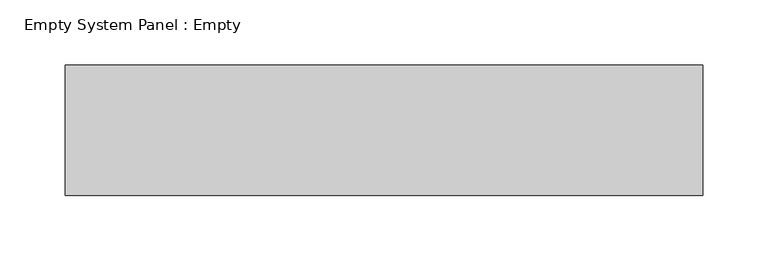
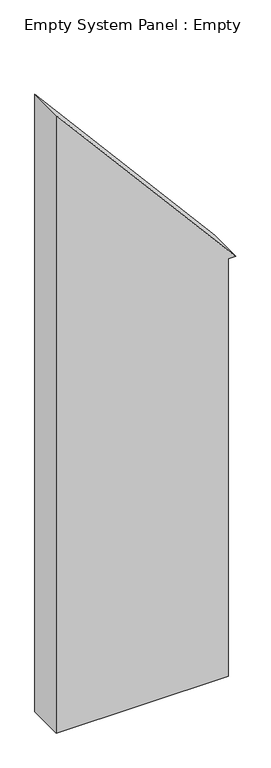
"""IFC4 building model written with IfcOpenShell, lengths in millimetres: plate geometry, Empty System Panel : Empty."""

from ifc_helpers import new_model, si_unit, frame, origin, place, context, project, spatial, polyline, outline, extrude, source, transform, mapped, element, save


def empty_system_panel_empty_778d40bf(model_context):
    return source(origin(), model_context, "Body", "SweptSolid", [
        extrude(outline(polyline([(0.0, -244.1589868), (0.0, 224.1589868), (1198.7517414, 224.1589868), (1198.7517414, 244.1589868), (1774.5448978, -244.1589868), (0.0, -244.1589868)])), frame((0.0, -50.0, 0.0), z_axis=(0.0, 1.0, 0.0), x_axis=(0.0, 0.0, 1.0)), (0.0, 0.0, 1.0), 100.0),
    ])


if __name__ == "__main__":
    model = new_model("IFC4")
    model_context = context("Model", 3, world=origin())
    ifc_project = project(units=[si_unit("LENGTHUNIT", "METRE", prefix="MILLI")], contexts=[model_context])
    site = spatial("IfcSite", under=ifc_project)
    building = spatial("IfcBuilding", under=site)
    placement = place(None, origin())
    empty_system_panel_empty_shape = empty_system_panel_empty_778d40bf(model_context)
    element("IfcPlate", 1, ObjectType="Empty System Panel : Empty", at=placement, inside=building, context=model_context, shape_type="MappedRepresentation", body=[
        mapped(empty_system_panel_empty_shape, transform((0.0, 0.0, 0.0), x_axis=(1.0, 0.0, 0.0), y_axis=(0.0, 1.0, 0.0), z_axis=(0.0, 0.0, 1.0))),
    ])
    save(model, "model.ifc")
